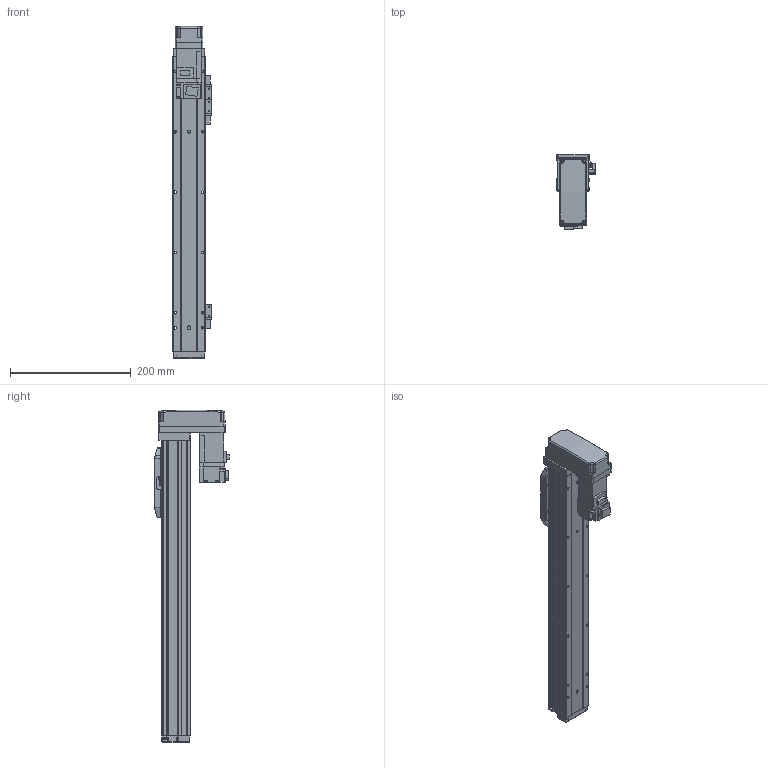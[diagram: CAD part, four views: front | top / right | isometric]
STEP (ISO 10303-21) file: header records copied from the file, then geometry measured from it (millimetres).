
FILE_DESCRIPTION (( 'STEP AP214' ), '1' );
FILE_NAME ('N_GRH5-350-BM-M10.step', '2025-03-14T10:50:48', ( '' ), ( '' ), 'SwSTEP 2.0', 'SolidWorks 2016', '' );
FILE_SCHEMA (( 'AUTOMOTIVE_DESIGN' ));
Length unit declared in the file: millimetre
Products named in the file (5): N_GRH5-350-BM-M10; HF-KP13_100W_Motor^N_GRH5-350-BM-M10; N_GRH5-GY-004^N_GRH5-350-BM-M10; N_GRH5-GY-011^N_GRH5-350-BM-M10; N_GRH5-BL-008^N_GRH5-350-BM-M10
Assembly tree (4 placements, depth 2):
  N_GRH5-350-BM-M10
    N_GRH5-GY-011^N_GRH5-350-BM-M10
    N_GRH5-GY-004^N_GRH5-350-BM-M10
    HF-KP13_100W_Motor^N_GRH5-350-BM-M10
    N_GRH5-BL-008^N_GRH5-350-BM-M10
Bounding box: 64.05 x 123.7 x 550.5 mm (x, y, z)
Volume: 1178565.1 mm3; surface area: 288029.5 mm2
Topology: 4 solids, 5 shells, 944 faces, 2408 edges, 1525 vertices
Faces by surface type: plane 549, cylinder 320, cone 50, bspline 15, sphere 10
Entity records: 35939 total; most frequent: CARTESIAN_POINT 5643, DIRECTION 4865, ORIENTED_EDGE 4752, EDGE_CURVE 2376, LINE 1643, VECTOR 1643, AXIS2_PLACEMENT_3D 1611, VERTEX_POINT 1523
